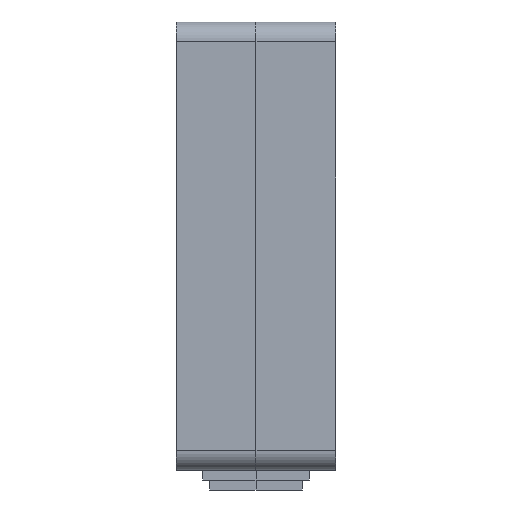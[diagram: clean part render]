
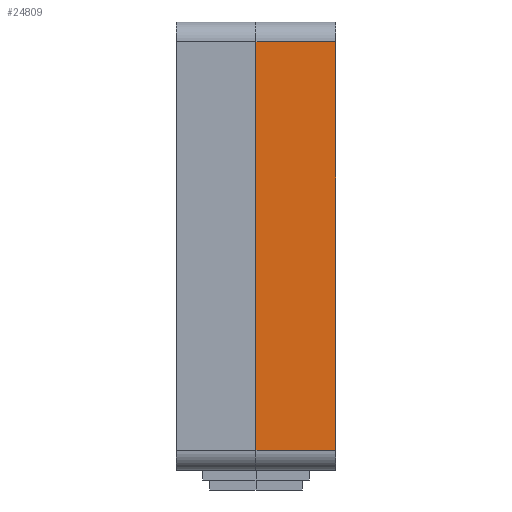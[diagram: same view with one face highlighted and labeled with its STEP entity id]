
A CAD part, left-side view. The second image highlights one B-rep face of the part: STEP entity #24809.
In plain terms, the highlighted planar face has unit normal (-1, 0, 0).
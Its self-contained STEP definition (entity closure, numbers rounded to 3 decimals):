
#84 = VERTEX_POINT ( 'NONE', #6969 ) ;
#85 = VERTEX_POINT ( 'NONE', #6970 ) ;
#190 = VERTEX_POINT ( 'NONE', #7438 ) ;
#195 = VERTEX_POINT ( 'NONE', #7443 ) ;
#667 = EDGE_LOOP ( 'NONE', ( #915, #916, #913, #918 ) ) ;
#913 = ORIENTED_EDGE ( 'NONE', *, *, #24990, .F. ) ;
#915 = ORIENTED_EDGE ( 'NONE', *, *, #24868, .T. ) ;
#916 = ORIENTED_EDGE ( 'NONE', *, *, #24885, .F. ) ;
#918 = ORIENTED_EDGE ( 'NONE', *, *, #24884, .T. ) ;
#6969 = CARTESIAN_POINT ( 'NONE',  ( -93., 24., -61.5 ) ) ;
#6970 = CARTESIAN_POINT ( 'NONE',  ( -93., 24., 61.5 ) ) ;
#7438 = CARTESIAN_POINT ( 'NONE',  ( -93., 0., -61.5 ) ) ;
#7443 = CARTESIAN_POINT ( 'NONE',  ( -93., 0., 61.5 ) ) ;
#14236 = FACE_OUTER_BOUND ( 'NONE', #667, .T. ) ;
#14262 = AXIS2_PLACEMENT_3D ( 'NONE', #22886, #22887, #22888 ) ;
#14377 = VECTOR ( 'NONE', #23096, 1000. ) ;
#14392 = VECTOR ( 'NONE', #23144, 1000. ) ;
#14393 = VECTOR ( 'NONE', #23147, 1000. ) ;
#14492 = VECTOR ( 'NONE', #23518, 1000. ) ;
#22885 = PLANE ( 'NONE',  #14262 ) ;
#22886 = CARTESIAN_POINT ( 'NONE',  ( -93., 24., -61.5 ) ) ;
#22887 = DIRECTION ( 'NONE',  ( 1., 0., 0. ) ) ;
#22888 = DIRECTION ( 'NONE',  ( 0., 0., -1. ) ) ;
#23094 = LINE ( 'NONE', #23095, #14377 ) ;
#23095 = CARTESIAN_POINT ( 'NONE',  ( -93., 0., -61.5 ) ) ;
#23096 = DIRECTION ( 'NONE',  ( 0., 0., 1. ) ) ;
#23142 = LINE ( 'NONE', #23143, #14392 ) ;
#23143 = CARTESIAN_POINT ( 'NONE',  ( -93., 24., -61.5 ) ) ;
#23144 = DIRECTION ( 'NONE',  ( 0., -1., 0. ) ) ;
#23145 = LINE ( 'NONE', #23146, #14393 ) ;
#23146 = CARTESIAN_POINT ( 'NONE',  ( -93., 24., 61.5 ) ) ;
#23147 = DIRECTION ( 'NONE',  ( 0., -1., 0. ) ) ;
#23516 = LINE ( 'NONE', #23517, #14492 ) ;
#23517 = CARTESIAN_POINT ( 'NONE',  ( -93., 24., -61.5 ) ) ;
#23518 = DIRECTION ( 'NONE',  ( 0., 0., 1. ) ) ;
#24809 = ADVANCED_FACE ( 'NONE', ( #14236 ), #22885, .F. ) ;
#24868 = EDGE_CURVE ( 'NONE', #190, #195, #23094, .T. ) ;
#24884 = EDGE_CURVE ( 'NONE', #84, #190, #23142, .T. ) ;
#24885 = EDGE_CURVE ( 'NONE', #85, #195, #23145, .T. ) ;
#24990 = EDGE_CURVE ( 'NONE', #84, #85, #23516, .T. ) ;
